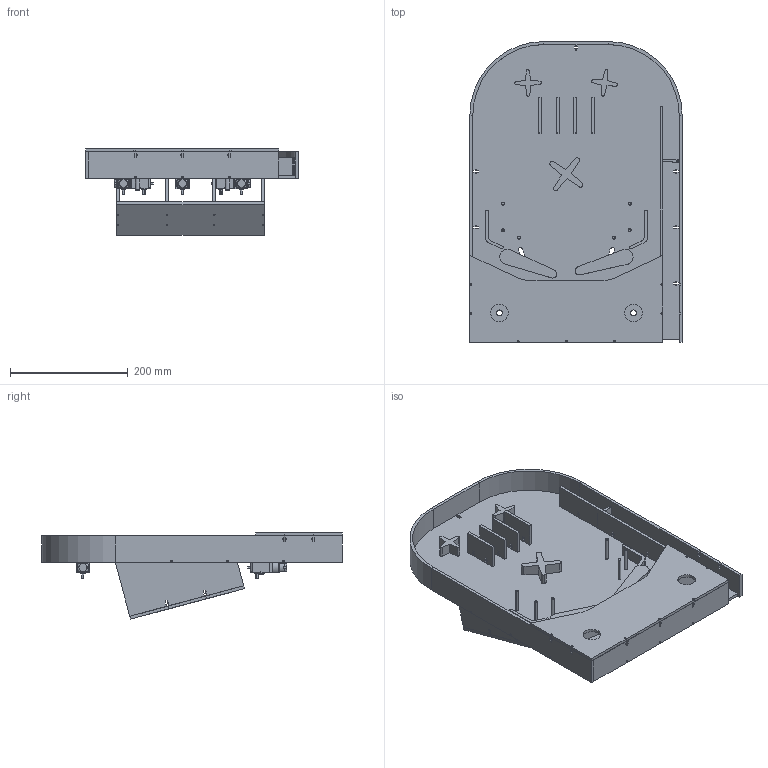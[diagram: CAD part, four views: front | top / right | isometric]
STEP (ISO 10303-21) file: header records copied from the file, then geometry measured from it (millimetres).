
FILE_DESCRIPTION (( 'STEP AP214' ), '1' );
FILE_NAME ('Pinball.STEP', '2019-05-10T12:19:50', ( '' ), ( '' ), 'SwSTEP 2.0', 'SolidWorks 2018', '' );
FILE_SCHEMA (( 'AUTOMOTIVE_DESIGN' ));
Length unit declared in the file: millimetre
Products named in the file (21): fan_D‚faut; door; chaneel2; upper plate; stand final; Flipper_DＧaut; DC Motor_Yellow Gear box; slots; boundry curves; small fan_D‚faut; 1; exit; flipper side; triangle; stand base; channel wall; Boundry3; boundry4; stand; Pinball; base plate
Assembly tree (40 placements, depth 3):
  Pinball
    base plate
    channel wall
    Boundry3
    Flipper_DＧaut  x2
    exit
    flipper side  x2
    upper plate
    stand  x6
    boundry4  x2
    boundry curves  x2
    1
    slots  x4
    fan_D‚faut
    small fan_D‚faut  x2
    DC Motor_Yellow Gear box  x5
    chaneel2
    stand final
      stand base
      triangle  x4
    door
Bounding box: 360 x 510 x 146.25 mm (x, y, z)
Volume: 2354580.4 mm3; surface area: 981645.1 mm2
Topology: 39 solids, 39 shells, 1987 faces, 4956 edges, 3056 vertices
Faces by surface type: plane 934, cylinder 699, torus 142, bspline 100, sphere 100, cone 12
Entity records: 29016 total; most frequent: CARTESIAN_POINT 5292, DIRECTION 4303, ORIENTED_EDGE 4218, EDGE_CURVE 2109, VECTOR 1469, LINE 1469, AXIS2_PLACEMENT_3D 1417, VERTEX_POINT 1366
